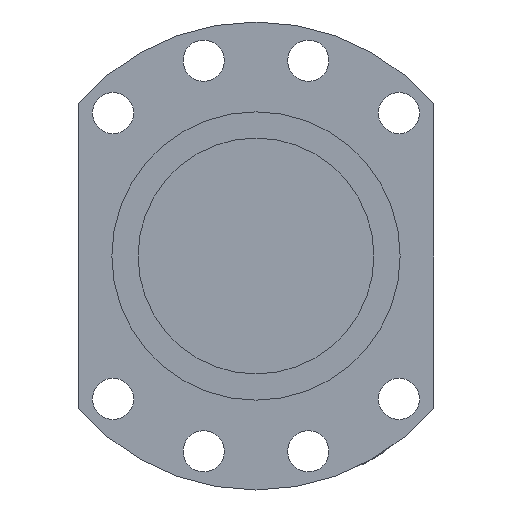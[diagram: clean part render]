
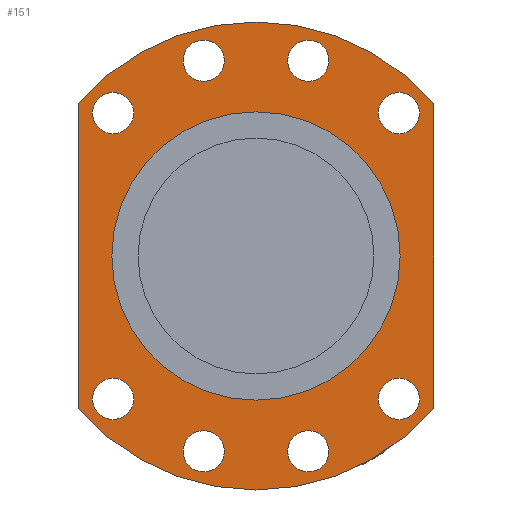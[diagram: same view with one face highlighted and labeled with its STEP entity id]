
A CAD part, front view. The second image highlights one B-rep face of the part: STEP entity #151.
In plain terms, the highlighted planar face has unit normal (0, -1, 0).
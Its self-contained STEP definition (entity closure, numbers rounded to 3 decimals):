
#98=LINE('',#930,#106);
#102=LINE('',#1001,#110);
#106=VECTOR('',#712,1.);
#110=VECTOR('',#724,1.);
#128=PLANE('',#641);
#151=ADVANCED_FACE('',(#217,#218,#219,#220,#221,#222,#223,#224,#225,#226),
#128,.F.);
#217=FACE_BOUND('',#301,.T.);
#218=FACE_BOUND('',#302,.T.);
#219=FACE_BOUND('',#303,.T.);
#220=FACE_BOUND('',#304,.T.);
#221=FACE_BOUND('',#305,.T.);
#222=FACE_BOUND('',#306,.T.);
#223=FACE_BOUND('',#307,.T.);
#224=FACE_BOUND('',#308,.T.);
#225=FACE_BOUND('',#309,.T.);
#226=FACE_BOUND('',#310,.T.);
#301=EDGE_LOOP('',(#400));
#302=EDGE_LOOP('',(#401));
#303=EDGE_LOOP('',(#402));
#304=EDGE_LOOP('',(#403));
#305=EDGE_LOOP('',(#404));
#306=EDGE_LOOP('',(#405));
#307=EDGE_LOOP('',(#406));
#308=EDGE_LOOP('',(#407));
#309=EDGE_LOOP('',(#408));
#310=EDGE_LOOP('',(#409,#410,#411,#412));
#400=ORIENTED_EDGE('',*,*,#539,.F.);
#401=ORIENTED_EDGE('',*,*,#540,.F.);
#402=ORIENTED_EDGE('',*,*,#541,.F.);
#403=ORIENTED_EDGE('',*,*,#542,.F.);
#404=ORIENTED_EDGE('',*,*,#543,.T.);
#405=ORIENTED_EDGE('',*,*,#544,.T.);
#406=ORIENTED_EDGE('',*,*,#545,.T.);
#407=ORIENTED_EDGE('',*,*,#546,.T.);
#408=ORIENTED_EDGE('',*,*,#547,.T.);
#409=ORIENTED_EDGE('',*,*,#517,.F.);
#410=ORIENTED_EDGE('',*,*,#528,.F.);
#411=ORIENTED_EDGE('',*,*,#525,.F.);
#412=ORIENTED_EDGE('',*,*,#521,.F.);
#470=VERTEX_POINT('',#922);
#471=VERTEX_POINT('',#923);
#474=VERTEX_POINT('',#931);
#477=VERTEX_POINT('',#996);
#488=VERTEX_POINT('',#1024);
#489=VERTEX_POINT('',#1026);
#490=VERTEX_POINT('',#1028);
#491=VERTEX_POINT('',#1030);
#492=VERTEX_POINT('',#1032);
#493=VERTEX_POINT('',#1034);
#494=VERTEX_POINT('',#1036);
#495=VERTEX_POINT('',#1038);
#496=VERTEX_POINT('',#1040);
#517=EDGE_CURVE('',#470,#471,#567,.T.);
#521=EDGE_CURVE('',#471,#474,#98,.T.);
#525=EDGE_CURVE('',#474,#477,#569,.T.);
#528=EDGE_CURVE('',#477,#470,#102,.T.);
#539=EDGE_CURVE('',#488,#488,#580,.T.);
#540=EDGE_CURVE('',#489,#489,#581,.T.);
#541=EDGE_CURVE('',#490,#490,#582,.T.);
#542=EDGE_CURVE('',#491,#491,#583,.T.);
#543=EDGE_CURVE('',#492,#492,#584,.T.);
#544=EDGE_CURVE('',#493,#493,#585,.T.);
#545=EDGE_CURVE('',#494,#494,#586,.T.);
#546=EDGE_CURVE('',#495,#495,#587,.T.);
#547=EDGE_CURVE('',#496,#496,#588,.T.);
#567=CIRCLE('',#614,62.5);
#569=CIRCLE('',#618,62.5);
#580=CIRCLE('',#632,5.5);
#581=CIRCLE('',#633,5.5);
#582=CIRCLE('',#634,5.5);
#583=CIRCLE('',#635,5.5);
#584=CIRCLE('',#636,5.5);
#585=CIRCLE('',#637,5.5);
#586=CIRCLE('',#638,5.5);
#587=CIRCLE('',#639,5.5);
#588=CIRCLE('',#640,38.5);
#614=AXIS2_PLACEMENT_3D('',#921,#704,#705);
#618=AXIS2_PLACEMENT_3D('',#995,#717,#718);
#632=AXIS2_PLACEMENT_3D('',#1023,#748,#749);
#633=AXIS2_PLACEMENT_3D('',#1025,#750,#751);
#634=AXIS2_PLACEMENT_3D('',#1027,#752,#753);
#635=AXIS2_PLACEMENT_3D('',#1029,#754,#755);
#636=AXIS2_PLACEMENT_3D('',#1031,#756,#757);
#637=AXIS2_PLACEMENT_3D('',#1033,#758,#759);
#638=AXIS2_PLACEMENT_3D('',#1035,#760,#761);
#639=AXIS2_PLACEMENT_3D('',#1037,#762,#763);
#640=AXIS2_PLACEMENT_3D('',#1039,#764,#765);
#641=AXIS2_PLACEMENT_3D('',#1041,#766,#767);
#704=DIRECTION('',(0.,1.,0.));
#705=DIRECTION('',(1.,0.,0.));
#712=DIRECTION('',(0.,0.,-1.));
#717=DIRECTION('',(0.,1.,0.));
#718=DIRECTION('',(1.,0.,0.));
#724=DIRECTION('',(0.,0.,1.));
#748=DIRECTION('',(0.,-1.,0.));
#749=DIRECTION('',(-1.,0.,0.));
#750=DIRECTION('',(0.,-1.,0.));
#751=DIRECTION('',(-0.866,0.,-0.5));
#752=DIRECTION('',(0.,-1.,0.));
#753=DIRECTION('',(-0.5,0.,-0.866));
#754=DIRECTION('',(0.,-1.,0.));
#755=DIRECTION('',(0.,0.,-1.));
#756=DIRECTION('',(0.,1.,0.));
#757=DIRECTION('',(-1.,0.,0.));
#758=DIRECTION('',(0.,1.,0.));
#759=DIRECTION('',(-0.866,0.,0.5));
#760=DIRECTION('',(0.,1.,0.));
#761=DIRECTION('',(-0.5,0.,0.866));
#762=DIRECTION('',(0.,1.,0.));
#763=DIRECTION('',(0.,0.,1.));
#764=DIRECTION('',(0.,1.,0.));
#765=DIRECTION('',(0.,0.,1.));
#766=DIRECTION('',(0.,1.,0.));
#767=DIRECTION('',(0.,0.,-1.));
#921=CARTESIAN_POINT('',(0.,-46.5,0.));
#922=CARTESIAN_POINT('',(-47.5,-46.5,40.62));
#923=CARTESIAN_POINT('',(47.5,-46.5,40.62));
#930=CARTESIAN_POINT('',(47.5,-46.5,40.62));
#931=CARTESIAN_POINT('',(47.5,-46.5,-40.62));
#995=CARTESIAN_POINT('',(0.,-46.5,0.));
#996=CARTESIAN_POINT('',(-47.5,-46.5,-40.62));
#1001=CARTESIAN_POINT('',(-47.5,-46.5,-40.62));
#1023=CARTESIAN_POINT('',(38.184,-46.5,38.184));
#1024=CARTESIAN_POINT('',(32.684,-46.5,38.184));
#1025=CARTESIAN_POINT('',(13.976,-46.5,52.16));
#1026=CARTESIAN_POINT('',(9.213,-46.5,49.41));
#1027=CARTESIAN_POINT('',(-13.976,-46.5,52.16));
#1028=CARTESIAN_POINT('',(-16.726,-46.5,47.397));
#1029=CARTESIAN_POINT('',(-38.184,-46.5,38.184));
#1030=CARTESIAN_POINT('',(-38.184,-46.5,32.684));
#1031=CARTESIAN_POINT('',(38.184,-46.5,-38.184));
#1032=CARTESIAN_POINT('',(32.684,-46.5,-38.184));
#1033=CARTESIAN_POINT('',(13.976,-46.5,-52.16));
#1034=CARTESIAN_POINT('',(9.213,-46.5,-49.41));
#1035=CARTESIAN_POINT('',(-13.976,-46.5,-52.16));
#1036=CARTESIAN_POINT('',(-16.726,-46.5,-47.397));
#1037=CARTESIAN_POINT('',(-38.184,-46.5,-38.184));
#1038=CARTESIAN_POINT('',(-38.184,-46.5,-32.684));
#1039=CARTESIAN_POINT('',(0.,-46.5,0.));
#1040=CARTESIAN_POINT('',(0.,-46.5,38.5));
#1041=CARTESIAN_POINT('',(0.,-46.5,0.));
